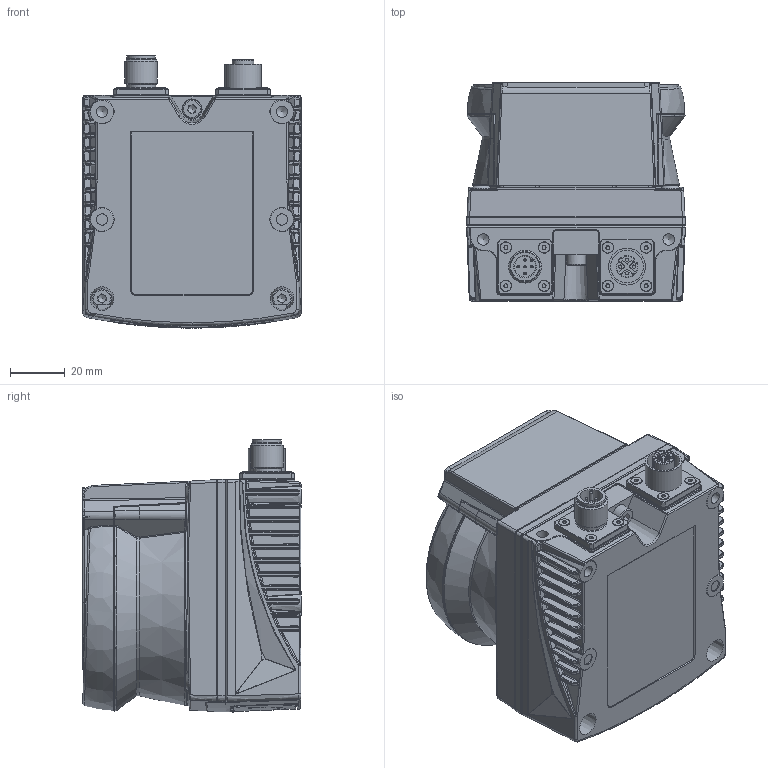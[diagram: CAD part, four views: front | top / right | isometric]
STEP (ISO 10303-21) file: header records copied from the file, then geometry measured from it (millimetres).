
FILE_DESCRIPTION (( 'STEP AP203' ), '1' );
FILE_NAME ('VISIOSCAN NAV-Marketing.STEP', '2025-11-07T02:52:14', ( '' ), ( '' ), 'SwSTEP 2.0', 'SolidWorks 2025', '' );
FILE_SCHEMA (( 'CONFIG_CONTROL_DESIGN' ));
Products named in the file (1): VISIOSCAN NAV-Marketing
Bounding box: 80.19 x 80.17 x 99.82 mm (x, y, z)
Volume: 458193.8 mm3; surface area: 50850 mm2
Topology: 1 solids, 43 shells, 2469 faces, 6135 edges, 3744 vertices
Faces by surface type: bspline 836, plane 701, cylinder 498, cone 343, torus 64, sphere 27
Full cylindrical faces by diameter (mm): 0.56 x2, 0.8 x1, 1 x5, 1.2 x18, 1.4 x2, 1.6 x8, 2 x10, 2.2 x10, 3.3 x33, 3.48 x4, 3.8 x2, 4 x9, 4.2 x15, 7 x1, 7.4 x1, 8.3 x1, 9.6 x1, 10.5 x1, 10.7 x2, 12 x4, 12.2 x2, 13.5 x1, 14.6 x2, 16.6 x2
Entity records: 126418 total; most frequent: CARTESIAN_POINT 78572, ORIENTED_EDGE 11124, DIRECTION 7754, EDGE_CURVE 5562, VERTEX_POINT 3547, AXIS2_PLACEMENT_3D 3075, EDGE_LOOP 2837, FACE_OUTER_BOUND 2599
